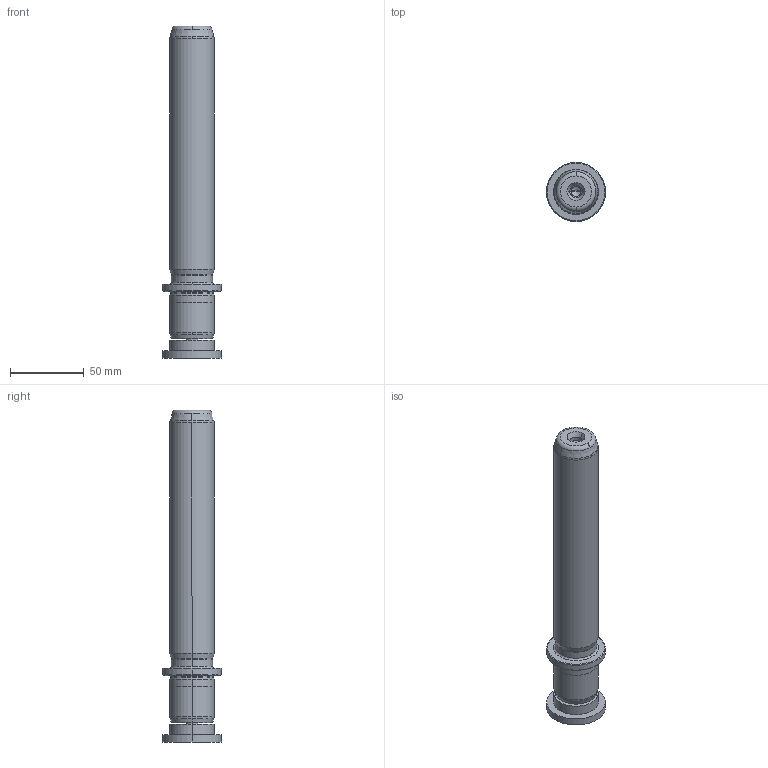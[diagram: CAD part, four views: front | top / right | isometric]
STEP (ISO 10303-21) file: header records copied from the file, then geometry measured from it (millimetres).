
FILE_DESCRIPTION((''),'2;1');
FILE_NAME('P22_030_180.stp','2009-02-03T10:20:54',(''),(''),'Mechanical Desktop 2009','Mechanical Desktop 2009',', , ');
FILE_SCHEMA(('CONFIG_CONTROL_DESIGN'));
Length unit declared in the file: millimetre
Products named in the file (2): Product; blmdl1
Assembly tree (1 placements, depth 2):
  Product
    blmdl1
Bounding box: 40 x 40 x 225 mm (x, y, z)
Volume: 160055.7 mm3; surface area: 28616.1 mm2
Topology: 3 solids, 3 shells, 99 faces, 237 edges, 149 vertices
Faces by surface type: cylinder 32, cone 28, plane 19, torus 10, bspline 10
Entity records: 3419 total; most frequent: CARTESIAN_POINT 923, DIRECTION 570, ORIENTED_EDGE 466, AXIS2_PLACEMENT_3D 246, EDGE_CURVE 233, CIRCLE 155, VERTEX_POINT 149, EDGE_LOOP 110
